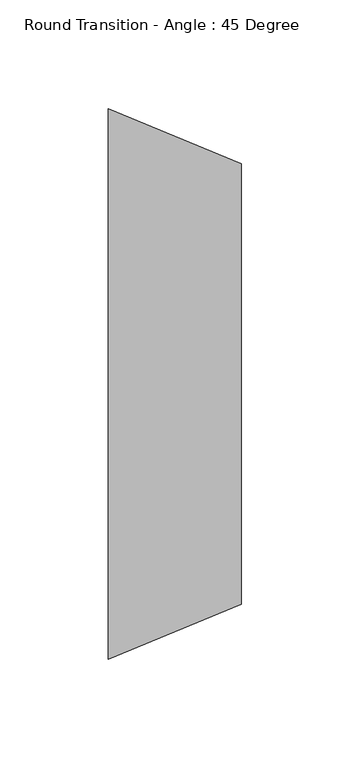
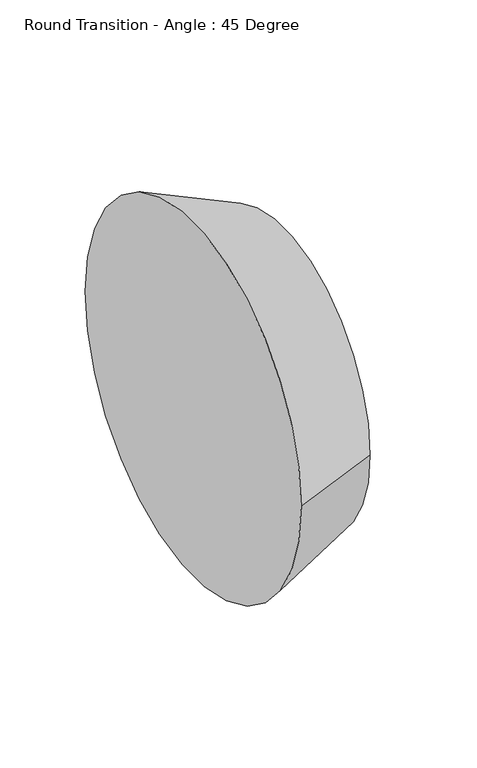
"""IFC4 building model written with IfcOpenShell, lengths in millimetres: duct fitting geometry, Round Transition - Angle : 45 Degree."""

from ifc_helpers import new_model, si_unit, frame, origin, place, context, project, spatial, polyline, circle_curve, source, transform, mapped, element, save
from ifc_brep_helpers import plane_surface, revolved_surface, advanced_brep


def round_transition_angle_45_degree_2c0294df(model_context):
    return source(origin(), model_context, "Body", "AdvancedBrep", [
        advanced_brep(
        [(61.3210245, -101.6, 0.0), (61.3210245, 101.6, 0.0), (0.0, -127.0, 0.0), (0.0, 127.0, 0.0)],
        [
            (0, 1, circle_curve(frame((61.3210245, 0.0, 0.0), z_axis=(1.0, 0.0, 0.0), x_axis=(0.0, -1.0, 0.0)), 101.6)),
            (1, 0, circle_curve(frame((61.3210245, 0.0, 0.0), z_axis=(1.0, 0.0, 0.0), x_axis=(0.0, 1.0, 0.0)), 101.6)),
            (2, 3, circle_curve(frame((0.0, 0.0, 0.0), z_axis=(-1.0, 0.0, 0.0), x_axis=(0.0, 1.0, 0.0)), 127.0)),
            (3, 2, circle_curve(frame((0.0, 0.0, 0.0), z_axis=(-1.0, 0.0, 0.0), x_axis=(0.0, -1.0, 0.0)), 127.0)),
            (3, 1),
            (0, 2),
        ],
        [
            plane_surface(frame((61.3210245, 0.0, 0.0), z_axis=(1.0, 0.0, 0.0), x_axis=(0.0, 0.0, -1.0))),
            plane_surface(frame((0.0, 0.0, 0.0), z_axis=(-1.0, 0.0, 0.0), x_axis=(0.0, 0.0, -1.0))),
            revolved_surface(polyline([(61.32102449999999, -101.59999999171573, 0.0), (0.0, -127.0, 0.0)]), (306.6051224, 0.0, 0.0), (-1.0, 0.0, 0.0)),
            revolved_surface(polyline([(61.32102449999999, 101.59999999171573, 0.0), (0.0, 127.0, 0.0)]), (306.6051224, 0.0, 0.0), (-1.0, 0.0, 0.0)),
        ],
        [
            (0, [[1, 2]]),
            (1, [[3, 4]]),
            (2, [[-4, 5, -1, 6]]),
            (3, [[-3, -6, -2, -5]]),
        ],
    ),
    ])


if __name__ == "__main__":
    model = new_model("IFC4")
    model_context = context("Model", 3, world=origin())
    ifc_project = project(units=[si_unit("LENGTHUNIT", "METRE", prefix="MILLI")], contexts=[model_context])
    site = spatial("IfcSite", under=ifc_project)
    building = spatial("IfcBuilding", under=site)
    placement = place(None, origin())
    round_transition_angle_45_degree_shape = round_transition_angle_45_degree_2c0294df(model_context)
    element("IfcDuctFitting", 1, ObjectType="Round Transition - Angle : 45 Degree", at=placement, inside=building, context=model_context, shape_type="MappedRepresentation", body=[
        mapped(round_transition_angle_45_degree_shape, transform((0.0, 0.0, 0.0), x_axis=(1.0, 0.0, 0.0), y_axis=(0.0, 1.0, 0.0), z_axis=(0.0, 0.0, 1.0))),
    ])
    save(model, "model.ifc")
